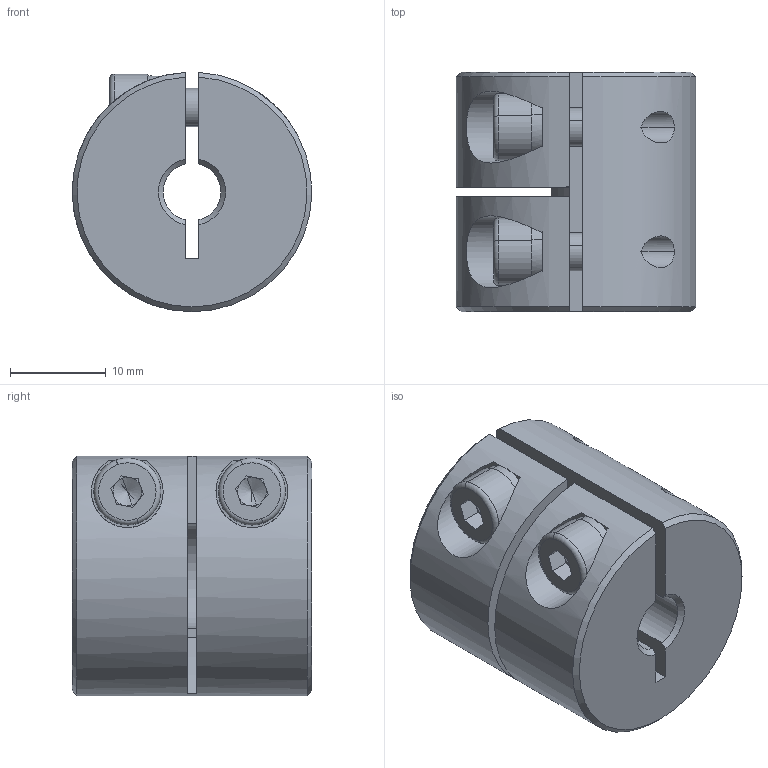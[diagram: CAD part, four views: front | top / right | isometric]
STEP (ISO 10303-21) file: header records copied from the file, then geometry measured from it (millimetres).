
FILE_DESCRIPTION (( 'STEP AP203' ), '1' );
FILE_NAME ('LL-B-D25L25-6-11.STEP', '2021-11-05T06:31:15', ( '' ), ( '' ), 'SwSTEP 2.0', 'SolidWorks 2018', '' );
FILE_SCHEMA (( 'CONFIG_CONTROL_DESIGN' ));
Length unit declared in the file: millimetre
Products named in the file (1): LL-B-D25L25-6-11
Bounding box: 24.99 x 25 x 24.98 mm (x, y, z)
Volume: 9934.9 mm3; surface area: 4958.3 mm2
Topology: 1 solids, 1 shells, 104 faces, 270 edges, 170 vertices
Faces by surface type: plane 52, cylinder 37, cone 11, torus 4
Entity records: 3471 total; most frequent: CARTESIAN_POINT 815, DIRECTION 560, ORIENTED_EDGE 532, EDGE_CURVE 266, AXIS2_PLACEMENT_3D 215, VERTEX_POINT 170, VECTOR 130, LINE 130
